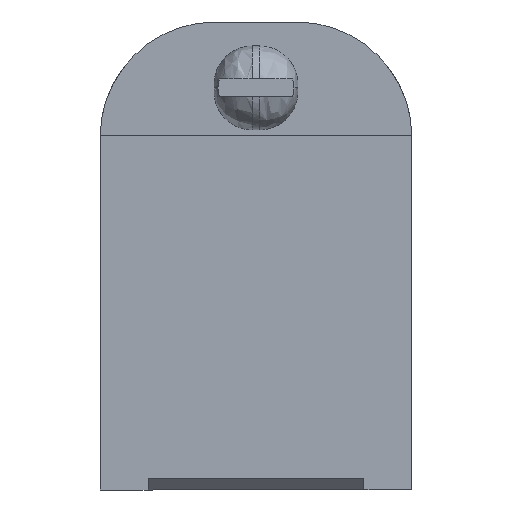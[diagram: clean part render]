
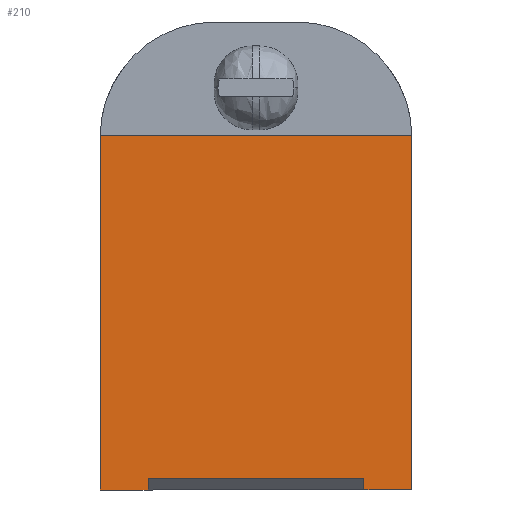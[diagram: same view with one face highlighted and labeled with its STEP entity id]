
A CAD part, left-side view. The second image highlights one B-rep face of the part: STEP entity #210.
In plain terms, the highlighted planar face has unit normal (-1, 0, 0).
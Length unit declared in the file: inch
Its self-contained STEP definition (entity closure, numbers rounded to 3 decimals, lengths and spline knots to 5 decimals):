
#210=ADVANCED_FACE('',(#416),#417,.T.);
#416=FACE_OUTER_BOUND('',#1282,.T.);
#417=PLANE('',#1283);
#1282=EDGE_LOOP('',(#2277,#2278,#2279,#2280,#2281,#2282,#2283,#2284,#2285,#2286));
#1283=AXIS2_PLACEMENT_3D('',#2287,#2288,#2289);
#2277=ORIENTED_EDGE('',*,*,#2481,.F.);
#2278=ORIENTED_EDGE('',*,*,#2600,.F.);
#2279=ORIENTED_EDGE('',*,*,#2616,.T.);
#2280=ORIENTED_EDGE('',*,*,#2562,.F.);
#2281=ORIENTED_EDGE('',*,*,#2577,.T.);
#2282=ORIENTED_EDGE('',*,*,#2603,.F.);
#2283=ORIENTED_EDGE('',*,*,#2538,.T.);
#2284=ORIENTED_EDGE('',*,*,#2617,.F.);
#2285=ORIENTED_EDGE('',*,*,#2618,.F.);
#2286=ORIENTED_EDGE('',*,*,#2619,.F.);
#2287=CARTESIAN_POINT('',(0.0,1.625,1.26675));
#2288=DIRECTION('',(-1.0,0.0,0.0));
#2289=DIRECTION('',(0.0,0.0,-1.0));
#2481=EDGE_CURVE('',#2767,#2769,#2770,.T.);
#2538=EDGE_CURVE('',#2856,#2854,#2857,.T.);
#2562=EDGE_CURVE('',#2886,#2888,#2889,.T.);
#2577=EDGE_CURVE('',#2886,#2907,#2909,.T.);
#2600=EDGE_CURVE('',#2938,#2767,#2940,.T.);
#2603=EDGE_CURVE('',#2856,#2907,#2944,.T.);
#2616=EDGE_CURVE('',#2938,#2888,#2959,.T.);
#2617=EDGE_CURVE('',#2960,#2854,#2961,.T.);
#2618=EDGE_CURVE('',#2962,#2960,#2963,.T.);
#2619=EDGE_CURVE('',#2769,#2962,#2964,.T.);
#2767=VERTEX_POINT('',#3391);
#2769=VERTEX_POINT('',#3394);
#2770=LINE('',#3395,#3396);
#2854=VERTEX_POINT('',#3552);
#2856=VERTEX_POINT('',#3555);
#2857=LINE('',#3556,#3557);
#2886=VERTEX_POINT('',#3603);
#2888=VERTEX_POINT('',#3606);
#2889=LINE('',#3607,#3608);
#2907=VERTEX_POINT('',#3638);
#2909=LINE('',#3641,#3642);
#2938=VERTEX_POINT('',#3716);
#2940=LINE('',#3719,#3720);
#2944=LINE('',#3726,#3727);
#2959=LINE('',#3784,#3785);
#2960=VERTEX_POINT('',#3786);
#2961=CIRCLE('',#3787,0.6);
#2962=VERTEX_POINT('',#3788);
#2963=LINE('',#3789,#3790);
#2964=CIRCLE('',#3791,0.6);
#3391=CARTESIAN_POINT('',(0.0,1.625,0.));
#3394=CARTESIAN_POINT('',(0.,1.625,1.83975));
#3395=CARTESIAN_POINT('',(0.,1.625,-0.6875));
#3396=VECTOR('',#3928,1.);
#3552=CARTESIAN_POINT('',(0.,0.,1.83975));
#3555=CARTESIAN_POINT('',(0.0,0.,0.));
#3556=CARTESIAN_POINT('',(0.,0.,-0.6875));
#3557=VECTOR('',#3963,1.);
#3603=CARTESIAN_POINT('',(0.,0.25,0.06));
#3606=CARTESIAN_POINT('',(0.0,1.375,0.06));
#3607=CARTESIAN_POINT('',(0.0,1.625,0.06));
#3608=VECTOR('',#3982,1.);
#3638=CARTESIAN_POINT('',(0.0,0.25,0.));
#3641=CARTESIAN_POINT('',(0.,0.25,0.));
#3642=VECTOR('',#3990,1.);
#3716=CARTESIAN_POINT('',(0.0,1.375,0.));
#3719=CARTESIAN_POINT('',(0.0,1.375,0.));
#3720=VECTOR('',#4011,1.);
#3726=CARTESIAN_POINT('',(0.0,0.,0.));
#3727=VECTOR('',#4014,1.);
#3784=CARTESIAN_POINT('',(0.0,1.375,0.));
#3785=VECTOR('',#4019,1.);
#3786=CARTESIAN_POINT('',(0.,0.00003,1.846));
#3787=AXIS2_PLACEMENT_3D('',#4020,#4021,#4022);
#3788=CARTESIAN_POINT('',(0.,1.62497,1.846));
#3789=CARTESIAN_POINT('',(0.,1.625,1.846));
#3790=VECTOR('',#4023,1.);
#3791=AXIS2_PLACEMENT_3D('',#4024,#4025,#4026);
#3928=DIRECTION('',(0.0,0.0,1.0));
#3963=DIRECTION('',(0.0,0.0,1.0));
#3982=DIRECTION('',(0.0,1.0,0.0));
#3990=DIRECTION('',(0.0,0.0,-1.0));
#4011=DIRECTION('',(0.0,1.0,0.0));
#4014=DIRECTION('',(0.0,1.0,0.0));
#4019=DIRECTION('',(0.0,0.0,1.0));
#4020=CARTESIAN_POINT('',(0.,0.6,1.83975));
#4021=DIRECTION('',(1.0,0.0,0.0));
#4022=DIRECTION('',(0.0,-0.707,0.707));
#4023=DIRECTION('',(0.0,-1.0,0.0));
#4024=CARTESIAN_POINT('',(0.,1.025,1.83975));
#4025=DIRECTION('',(1.0,0.0,-0.0));
#4026=DIRECTION('',(0.0,0.707,0.707));
